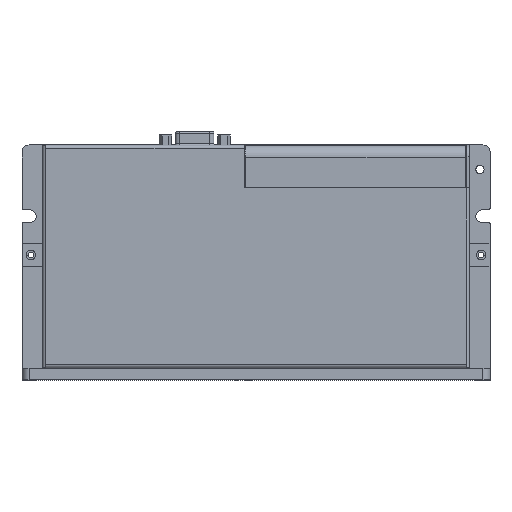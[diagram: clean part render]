
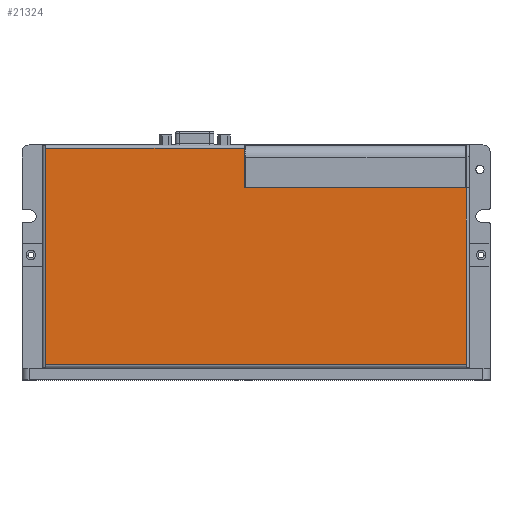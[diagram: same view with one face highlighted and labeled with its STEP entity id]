
A CAD part, top view. The second image highlights one B-rep face of the part: STEP entity #21324.
In plain terms, the highlighted planar face has unit normal (0, 0, 1).
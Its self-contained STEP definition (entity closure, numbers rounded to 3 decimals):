
#17527=DIRECTION('',(-1.,0.,0.));
#17528=VECTOR('',#17527,179.8);
#17529=CARTESIAN_POINT('',(89.9,-46.8,24.8));
#17530=LINE('',#17529,#17528);
#18033=DIRECTION('',(0.,1.,0.));
#18034=VECTOR('',#18033,92.5);
#18035=CARTESIAN_POINT('',(-89.9,-46.8,24.8));
#18036=LINE('',#18035,#18034);
#18067=DIRECTION('',(1.,0.,0.));
#18068=VECTOR('',#18067,84.9);
#18069=CARTESIAN_POINT('',(-89.9,45.7,24.8));
#18070=LINE('',#18069,#18068);
#18374=DIRECTION('',(0.,1.,0.));
#18375=VECTOR('',#18374,16.9);
#18376=CARTESIAN_POINT('',(-5.,28.8,24.8));
#18377=LINE('',#18376,#18375);
#18378=DIRECTION('',(-1.,0.,0.));
#18379=VECTOR('',#18378,94.9);
#18380=CARTESIAN_POINT('',(89.9,28.8,24.8));
#18381=LINE('',#18380,#18379);
#18400=DIRECTION('',(0.,-1.,0.));
#18401=VECTOR('',#18400,75.6);
#18402=CARTESIAN_POINT('',(89.9,28.8,24.8));
#18403=LINE('',#18402,#18401);
#19584=CARTESIAN_POINT('',(-89.9,-46.8,24.8));
#19585=VERTEX_POINT('',#19584);
#19588=CARTESIAN_POINT('',(89.9,-46.8,24.8));
#19589=VERTEX_POINT('',#19588);
#19608=CARTESIAN_POINT('',(-89.9,45.7,24.8));
#19609=VERTEX_POINT('',#19608);
#19968=CARTESIAN_POINT('',(-5.,28.8,24.8));
#19969=CARTESIAN_POINT('',(-5.,45.7,24.8));
#19970=VERTEX_POINT('',#19968);
#19971=VERTEX_POINT('',#19969);
#19980=CARTESIAN_POINT('',(89.9,28.8,24.8));
#19981=VERTEX_POINT('',#19980);
#21310=CARTESIAN_POINT('',(0.,0.,24.8));
#21311=DIRECTION('',(0.,0.,1.));
#21312=DIRECTION('',(1.,0.,0.));
#21313=AXIS2_PLACEMENT_3D('',#21310,#21311,#21312);
#21314=PLANE('',#21313);
#21315=ORIENTED_EDGE('',*,*,#20102,.F.);
#21316=ORIENTED_EDGE('',*,*,#20117,.F.);
#21318=ORIENTED_EDGE('',*,*,#21317,.T.);
#21319=ORIENTED_EDGE('',*,*,#20193,.T.);
#21320=ORIENTED_EDGE('',*,*,#20813,.T.);
#21321=ORIENTED_EDGE('',*,*,#20881,.T.);
#21322=EDGE_LOOP('',(#21315,#21316,#21318,#21319,#21320,#21321));
#21323=FACE_OUTER_BOUND('',#21322,.F.);
#21324=ADVANCED_FACE('',(#21323),#21314,.T.);
#20102=EDGE_CURVE('',#19970,#19971,#18377,.T.);
#20117=EDGE_CURVE('',#19981,#19970,#18381,.T.);
#20193=EDGE_CURVE('',#19589,#19585,#17530,.T.);
#20813=EDGE_CURVE('',#19585,#19609,#18036,.T.);
#20881=EDGE_CURVE('',#19609,#19971,#18070,.T.);
#21317=EDGE_CURVE('',#19981,#19589,#18403,.T.);
